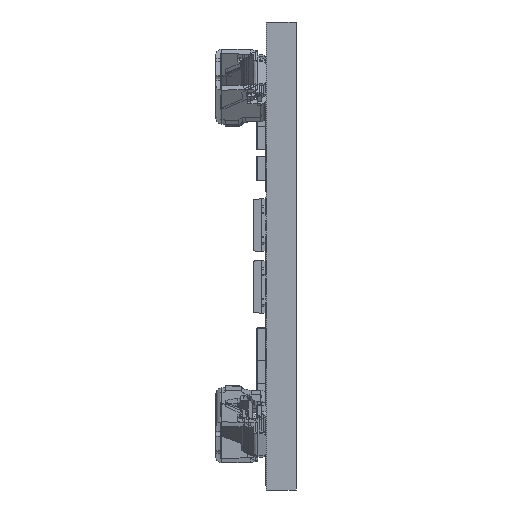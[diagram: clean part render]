
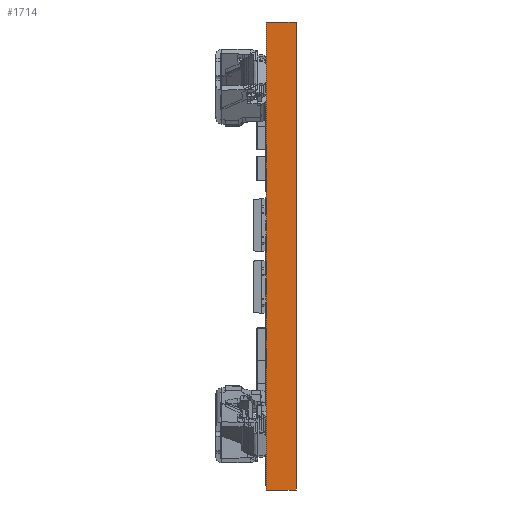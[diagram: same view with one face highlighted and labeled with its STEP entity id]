
A CAD part, left-side view. The second image highlights one B-rep face of the part: STEP entity #1714.
In plain terms, the highlighted planar face has unit normal (-1, 0, 0).
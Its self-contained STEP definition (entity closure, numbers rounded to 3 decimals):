
#96=DIRECTION('',(0.,0.,1.));
#97=VECTOR('',#96,25.);
#98=CARTESIAN_POINT('',(-139.5,0.,-11.5));
#99=LINE('',#98,#97);
#406=DIRECTION('',(0.,0.,1.));
#407=VECTOR('',#406,25.);
#408=CARTESIAN_POINT('',(-139.5,-1.6,-11.5));
#409=LINE('',#408,#407);
#599=DIRECTION('',(0.,-1.,0.));
#600=VECTOR('',#599,1.6);
#601=CARTESIAN_POINT('',(-139.5,0.,-11.5));
#602=LINE('',#601,#600);
#603=DIRECTION('',(0.,-1.,0.));
#604=VECTOR('',#603,1.6);
#605=CARTESIAN_POINT('',(-139.5,0.,13.5));
#606=LINE('',#605,#604);
#733=CARTESIAN_POINT('',(-139.5,0.,-11.5));
#734=VERTEX_POINT('',#733);
#735=CARTESIAN_POINT('',(-139.5,0.,13.5));
#736=VERTEX_POINT('',#735);
#829=CARTESIAN_POINT('',(-139.5,-1.6,-11.5));
#830=VERTEX_POINT('',#829);
#831=CARTESIAN_POINT('',(-139.5,-1.6,13.5));
#832=VERTEX_POINT('',#831);
#1702=CARTESIAN_POINT('',(-139.5,0.,-11.5));
#1703=DIRECTION('',(-1.,0.,0.));
#1704=DIRECTION('',(0.,0.,1.));
#1705=AXIS2_PLACEMENT_3D('',#1702,#1703,#1704);
#1706=PLANE('',#1705);
#1707=ORIENTED_EDGE('',*,*,#878,.T.);
#1709=ORIENTED_EDGE('',*,*,#1708,.T.);
#1710=ORIENTED_EDGE('',*,*,#1083,.F.);
#1711=ORIENTED_EDGE('',*,*,#1688,.F.);
#1712=EDGE_LOOP('',(#1707,#1709,#1710,#1711));
#1713=FACE_OUTER_BOUND('',#1712,.F.);
#878=EDGE_CURVE('',#734,#736,#99,.T.);
#1083=EDGE_CURVE('',#830,#832,#409,.T.);
#1688=EDGE_CURVE('',#734,#830,#602,.T.);
#1708=EDGE_CURVE('',#736,#832,#606,.T.);
#1714=ADVANCED_FACE('',(#1713),#1706,.T.);
